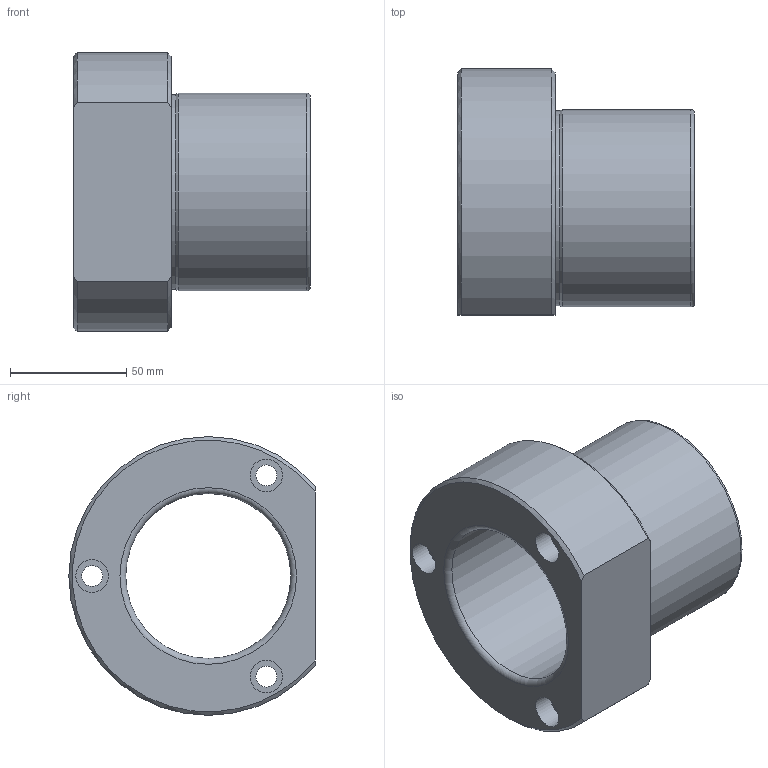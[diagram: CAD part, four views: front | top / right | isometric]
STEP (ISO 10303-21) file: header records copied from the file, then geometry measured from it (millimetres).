
FILE_DESCRIPTION(/* description */ ('Impex Ready, www.impex-ready.pl'),/* implementation_level */ '2;1');
FILE_NAME(/* name */ 'C:\Users\VIKKY\Nextcloud\SM\projekt 10 - części na stronę internetową\Pliki_3D_new\283 Tuleje B5AG\283 B5AG_STEP\B5AG63-4.ipt.step',/* time_stamp */ '2021-12-20T14:10:51+01:00',/* author */ ('SM'),/* organization */ (''),/* preprocessor_version */ 'ST-DEVELOPER v18.1',/* originating_system */ 'Autodesk Inventor 2021',/* authorisation */ '');
FILE_SCHEMA (('AUTOMOTIVE_DESIGN { 1 0 10303 214 3 1 1 }'));
Length unit declared in the file: millimetre
Products named in the file (1): B5AG63-4
Bounding box: 102 x 106 x 120 mm (x, y, z)
Volume: 368672 mm3; surface area: 70239.2 mm2
Topology: 1 solids, 1 shells, 23 faces, 49 edges, 32 vertices
Faces by surface type: cylinder 10, plane 7, torus 3, cone 3
Full cylindrical faces by diameter (mm): 9 x3, 14 x3, 71 x1, 84 x1, 85 x1
Entity records: 732 total; most frequent: DIRECTION 124, CARTESIAN_POINT 113, ORIENTED_EDGE 98, AXIS2_PLACEMENT_3D 55, EDGE_CURVE 49, EDGE_LOOP 35, VERTEX_POINT 32, CIRCLE 31
